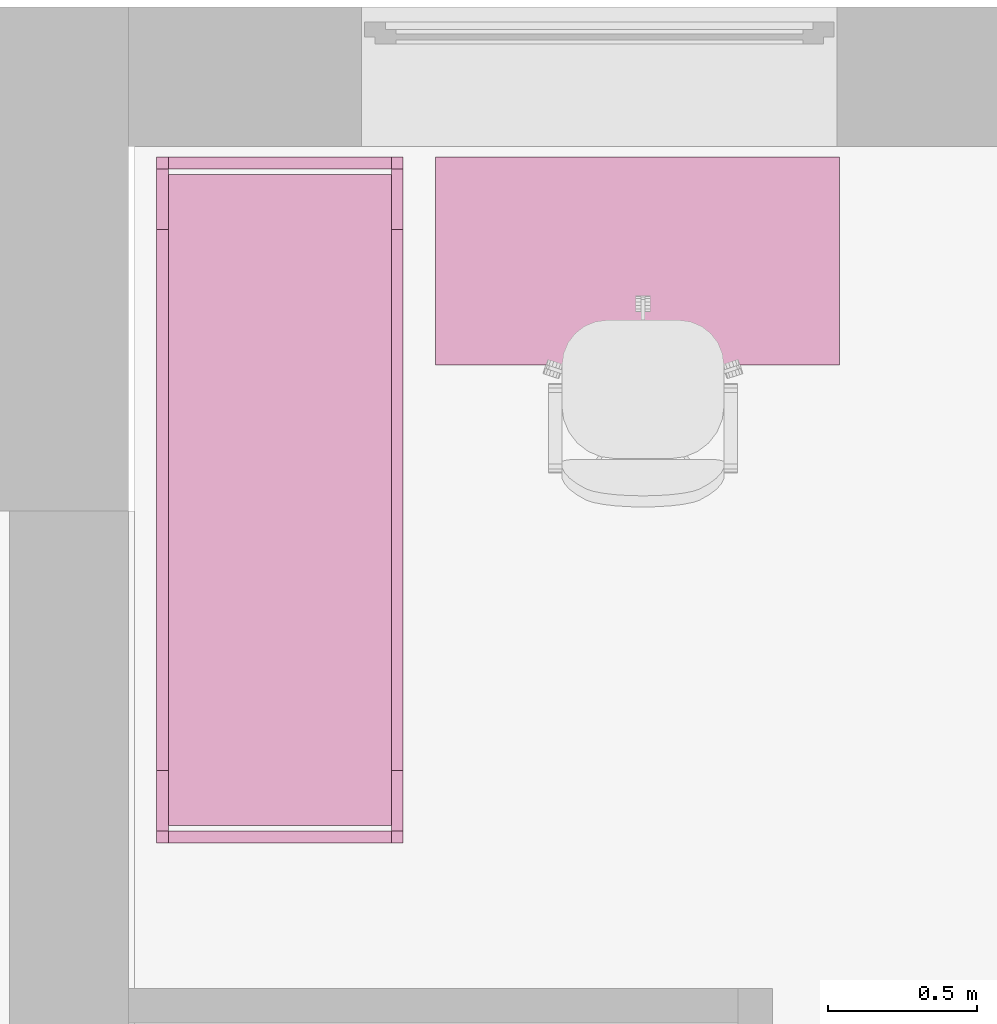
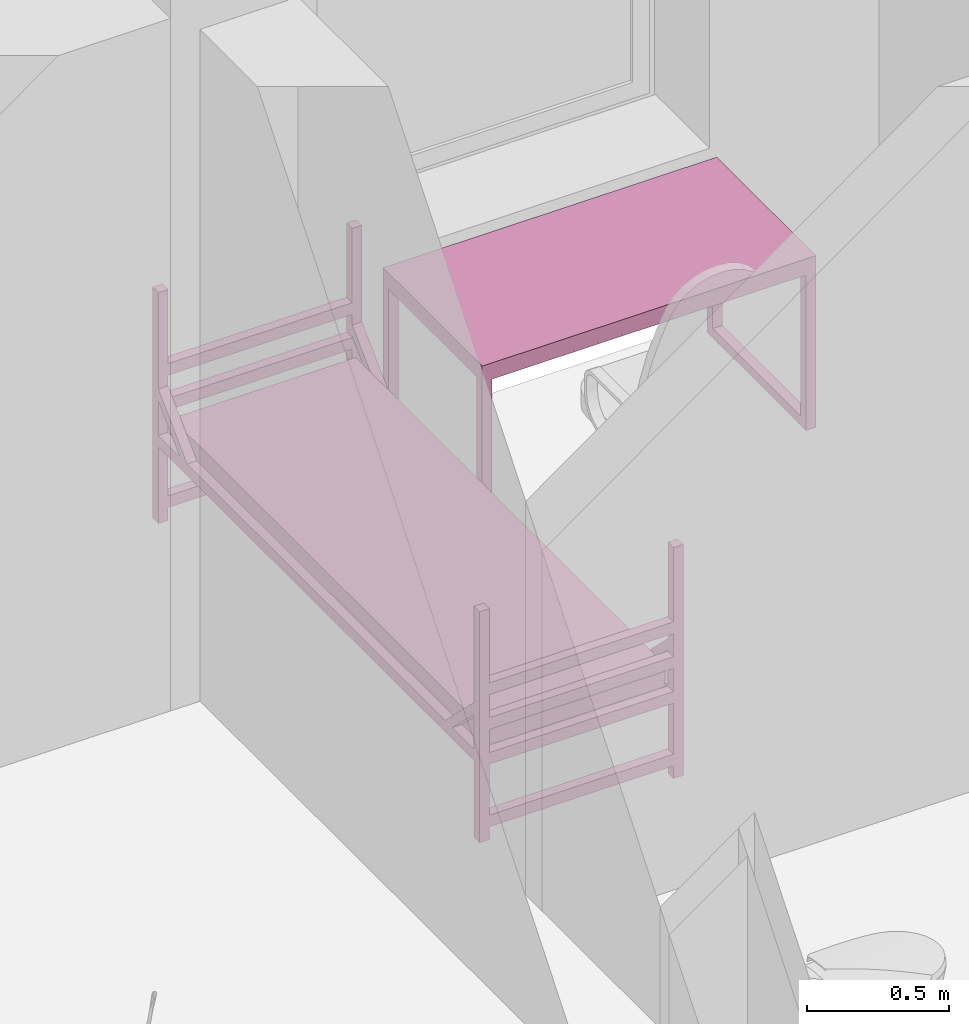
# One storey, part 24 of 46: 2 furnishings.
"""IFC2X3 building model written with IfcOpenShell, lengths in millimetres."""

from ifc_helpers import new_model, entity, si_unit, converted_unit, derived_unit, direction, frame, frame_2d, origin, place, context, subcontext, project, spatial, polyline, circle_curve, parameter, trimmed, segment, composite_curve, rectangle, outline, extrude, faceted_brep, source, transform, mapped, material, material_list, type_object, type_shapes, element, save


model = new_model("IFC2X3")

# Units and contexts
model_context = context("Model", 3, precision=0.01, world=origin(), true_north=direction((6.12303176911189e-17, 1.0)))
body_context = subcontext(model_context, "Body", "Model", "MODEL_VIEW")
ifc_project = project(units=[si_unit("LENGTHUNIT", "METRE", prefix="MILLI"), si_unit("AREAUNIT", "SQUARE_METRE"), si_unit("VOLUMEUNIT", "CUBIC_METRE"), converted_unit("PLANEANGLEUNIT", "DEGREE", entity("IfcRatioMeasure", 0.0174532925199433), si_unit("PLANEANGLEUNIT", "RADIAN"), dimensions=[0, 0, 0, 0, 0, 0, 0]), si_unit("MASSUNIT", "GRAM", prefix="KILO"), derived_unit("MASSDENSITYUNIT", [(si_unit("MASSUNIT", "GRAM", prefix="KILO"), 1), (si_unit("LENGTHUNIT", "METRE"), -3)]), si_unit("TIMEUNIT", "SECOND"), si_unit("FREQUENCYUNIT", "HERTZ"), si_unit("THERMODYNAMICTEMPERATUREUNIT", "DEGREE_CELSIUS"), derived_unit("THERMALTRANSMITTANCEUNIT", [(si_unit("MASSUNIT", "GRAM", prefix="KILO"), 1), (si_unit("THERMODYNAMICTEMPERATUREUNIT", "KELVIN"), -1), (si_unit("TIMEUNIT", "SECOND"), -3)]), derived_unit("VOLUMETRICFLOWRATEUNIT", [(si_unit("LENGTHUNIT", "METRE"), 3), (si_unit("TIMEUNIT", "SECOND"), -1)]), si_unit("ELECTRICCURRENTUNIT", "AMPERE"), si_unit("ELECTRICVOLTAGEUNIT", "VOLT"), si_unit("POWERUNIT", "WATT"), si_unit("FORCEUNIT", "NEWTON", prefix="KILO"), si_unit("ILLUMINANCEUNIT", "LUX"), si_unit("LUMINOUSFLUXUNIT", "LUMEN"), si_unit("LUMINOUSINTENSITYUNIT", "CANDELA"), derived_unit("USERDEFINED", [(si_unit("MASSUNIT", "GRAM", prefix="KILO"), -1), (si_unit("LENGTHUNIT", "METRE"), -2), (si_unit("TIMEUNIT", "SECOND"), 3), (si_unit("LUMINOUSFLUXUNIT", "LUMEN"), 1)]), derived_unit("LINEARVELOCITYUNIT", [(si_unit("LENGTHUNIT", "METRE"), 1), (si_unit("TIMEUNIT", "SECOND"), -1)]), si_unit("PRESSUREUNIT", "PASCAL"), derived_unit("USERDEFINED", [(si_unit("LENGTHUNIT", "METRE"), -2), (si_unit("MASSUNIT", "GRAM", prefix="KILO"), 1), (si_unit("TIMEUNIT", "SECOND"), -2)]), derived_unit("LINEARFORCEUNIT", [(si_unit("MASSUNIT", "GRAM", prefix="KILO"), 1), (si_unit("LENGTHUNIT", "METRE"), 1), (si_unit("TIMEUNIT", "SECOND"), -2), (si_unit("LENGTHUNIT", "METRE"), -1)]), derived_unit("PLANARFORCEUNIT", [(si_unit("MASSUNIT", "GRAM", prefix="KILO"), 1), (si_unit("LENGTHUNIT", "METRE"), 1), (si_unit("TIMEUNIT", "SECOND"), -2), (si_unit("LENGTHUNIT", "METRE"), -2)])], contexts=[model_context])

# Site, building, storey, space
site_placement = place(None, origin())
site = spatial("IfcSite", under=ifc_project, at=site_placement, Name="Default", CompositionType="ELEMENT")
building_placement = place(site_placement, origin())
building = spatial("IfcBuilding", under=site, at=building_placement, Name="SMA ARH", CompositionType="ELEMENT")
storey_placement = place(building_placement, frame((0.0, 0.0, 9910.0)))
storey = spatial("IfcBuildingStorey", under=building, at=storey_placement, Name="4 Korrus", CompositionType="ELEMENT", Elevation=9909.9999999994)
space_placement = place(storey_placement, origin())
space = spatial("IfcSpace", under=storey, at=space_placement, Name="4-20/1", CompositionType="ELEMENT", InteriorOrExteriorSpace="INTERNAL")

# Furnishings
ifc_material_1 = material(Name="Madrats")
furniture_type_1 = type_object("IfcFurnitureType", Name="Kasarmu voodi ühekordne 2308x830:Kasarmu voodi ühekordne 2308x830", material=ifc_material_1)
shared_shape_1 = source(origin(), body_context, "Body", "SweptSolid", [
    extrude(rectangle(XDim=39.9999999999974, YDim=750.000000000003, at=frame_2d((-1.35003119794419e-13, -2.8421709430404e-14), x_axis=(1.0, 0.0))), frame((1.68638457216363, -1226.7969571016, 55.0), z_axis=(0.0, 0.0, 1.0), x_axis=(0.0, -1.0, 0.0)), (0.0, 0.0, 1.0), 49.9999999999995),
    extrude(rectangle(XDim=39.9999999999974, YDim=750.000000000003, at=frame_2d((-1.35003119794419e-13, -2.8421709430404e-14), x_axis=(1.0, 0.0))), frame((1.68638457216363, -1226.7969571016, 325.0), z_axis=(0.0, 0.0, 1.0), x_axis=(0.0, -1.0, 0.0)), (0.0, 0.0, 1.0), 49.9999999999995),
    extrude(rectangle(XDim=39.9999999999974, YDim=750.000000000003, at=frame_2d((-1.35003119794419e-13, -2.8421709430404e-14), x_axis=(1.0, 0.0))), frame((1.68638457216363, -1226.7969571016, 475.0), z_axis=(0.0, 0.0, 1.0), x_axis=(0.0, -1.0, 0.0)), (0.0, 0.0, 1.0), 49.9999999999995),
    extrude(rectangle(XDim=39.9999999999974, YDim=750.000000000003, at=frame_2d((-1.35003119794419e-13, -2.8421709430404e-14), x_axis=(1.0, 0.0))), frame((1.68638457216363, -1226.7969571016, 625.0), z_axis=(0.0, 0.0, 1.0), x_axis=(0.0, -1.0, 0.0)), (0.0, 0.0, 1.0), 50.0000000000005),
    extrude(rectangle(XDim=39.9999999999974, YDim=750.000000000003, at=frame_2d((1.35003119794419e-13, -2.8421709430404e-14), x_axis=(1.0, 0.0))), frame((1.68638457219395, 1041.2030428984, 55.0), z_axis=(0.0, 0.0, 1.0), x_axis=(0.0, -1.0, 0.0)), (0.0, 0.0, 1.0), 50.0000000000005),
    extrude(rectangle(XDim=39.9999999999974, YDim=750.000000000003, at=frame_2d((1.35003119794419e-13, -2.8421709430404e-14), x_axis=(1.0, 0.0))), frame((1.68638457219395, 1041.2030428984, 325.0), z_axis=(0.0, 0.0, 1.0), x_axis=(0.0, -1.0, 0.0)), (0.0, 0.0, 1.0), 50.0000000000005),
    extrude(rectangle(XDim=39.9999999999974, YDim=750.000000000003, at=frame_2d((1.35003119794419e-13, -2.8421709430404e-14), x_axis=(1.0, 0.0))), frame((1.68638457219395, 1041.2030428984, 475.0), z_axis=(0.0, 0.0, 1.0), x_axis=(0.0, -1.0, 0.0)), (0.0, 0.0, 1.0), 50.0000000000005),
    extrude(rectangle(XDim=39.9999999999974, YDim=750.000000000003, at=frame_2d((1.35003119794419e-13, -2.8421709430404e-14), x_axis=(1.0, 0.0))), frame((1.68638457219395, 1041.2030428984, 625.0), z_axis=(0.0, 0.0, 1.0), x_axis=(0.0, -1.0, 0.0)), (0.0, 0.0, 1.0), 49.9999999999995),
    extrude(outline(composite_curve([segment(trimmed(circle_curve(frame_2d((1085.0, -40.0), x_axis=(1.0, 0.0)), 10.0), [parameter(270.0)], [parameter(0.0)], True, "PARAMETER"), True, "CONTINUOUS"), segment(polyline([(1095.0, -40.0), (1095.0, 40.0)]), True, "CONTINUOUS"), segment(trimmed(circle_curve(frame_2d((1085.0, 40.0), x_axis=(1.0, 0.0)), 10.0), [parameter(0.0)], [parameter(90.0000000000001)], True, "PARAMETER"), True, "CONTINUOUS"), segment(polyline([(1085.0, 50.0), (-1085.0, 50.0)]), True, "CONTINUOUS"), segment(trimmed(circle_curve(frame_2d((-1085.0, 40.0), x_axis=(1.0, 0.0)), 10.0), [parameter(90.0000000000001)], [parameter(180.0)], True, "PARAMETER"), True, "CONTINUOUS"), segment(polyline([(-1095.0, 40.0), (-1095.0, -40.0)]), True, "CONTINUOUS"), segment(trimmed(circle_curve(frame_2d((-1085.0, -40.0), x_axis=(1.0, 0.0)), 10.0), [parameter(180.0)], [parameter(270.0)], True, "PARAMETER"), True, "CONTINUOUS"), segment(polyline([(-1085.0, -50.0), (1085.0, -50.0)]), True, "CONTINUOUS")], self_intersect=False)), frame((-373.313615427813, -92.7969571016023, 405.0), z_axis=(1.0, 0.0, 0.0), x_axis=(0.0, -1.0, 0.0)), (0.0, 0.0, 1.0), 750.000000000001),
    extrude(outline(polyline([(-1114.0, -100.0), (1114.0, -100.0), (1114.0, -50.0), (961.59199141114, -50.0), (1114.0, 100.0), (1114.0, 150.0), (910.789321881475, -50.0), (-910.789321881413, -50.0), (-1114.0, 150.0), (-1114.0, 100.0), (-961.591991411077, -50.0), (-1114.0, -50.0), (-1114.0, -100.0)])), frame((-413.313615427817, -92.7969571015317, 430.0), z_axis=(1.0, 0.0, 0.0), x_axis=(0.0, 1.0, 0.0)), (0.0, 0.0, 1.0), 39.9999999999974),
    extrude(outline(polyline([(-1114.0, -100.0), (1114.0, -100.0), (1114.0, -50.0), (961.591991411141, -50.0), (1114.0, 100.0), (1114.0, 150.0), (910.789321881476, -50.0), (-910.789321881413, -50.0), (-1114.0, 150.0), (-1114.0, 100.0), (-961.591991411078, -50.0), (-1114.0, -50.0), (-1114.0, -100.0)])), frame((376.686384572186, -92.796957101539, 430.0), z_axis=(1.0, 0.0, 0.0), x_axis=(0.0, 1.0, 0.0)), (0.0, 0.0, 1.0), 39.9999999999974),
    extrude(rectangle(XDim=39.9999999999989, YDim=39.9999999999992, at=frame_2d((-6.75015598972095e-14, 0.0), x_axis=(1.0, 0.0))), frame((396.686384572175, -1226.79695710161, 0.0), z_axis=(0.0, 0.0, 1.0), x_axis=(0.0, 1.0, 0.0)), (0.0, 0.0, 1.0), 995.0),
    extrude(rectangle(XDim=39.9999999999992, YDim=39.9999999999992, at=frame_2d((-1.35003119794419e-13, 0.0), x_axis=(1.0, 0.0))), frame((396.686384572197, 1041.20304289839, 0.0), z_axis=(0.0, 0.0, 1.0), x_axis=(0.0, 1.0, 0.0)), (0.0, 0.0, 1.0), 995.0),
    extrude(rectangle(XDim=40.0000000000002, YDim=39.9999999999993, at=frame_2d((-1.35003119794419e-13, 0.0), x_axis=(1.0, 0.0))), frame((-393.313615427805, 1041.2030428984, 0.0), z_axis=(0.0, 0.0, 1.0), x_axis=(0.0, 1.0, 0.0)), (0.0, 0.0, 1.0), 995.0),
    extrude(rectangle(XDim=39.9999999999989, YDim=39.9999999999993, at=frame_2d((-6.75015598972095e-14, 0.0), x_axis=(1.0, 0.0))), frame((-393.313615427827, -1226.7969571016, 0.0), z_axis=(0.0, 0.0, 1.0), x_axis=(0.0, 1.0, 0.0)), (0.0, 0.0, 1.0), 995.0),
])
type_shapes(furniture_type_1, [shared_shape_1])
furnishing_1_placement = place(space_placement, frame((2653.31361542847, 11380.0, 0.0)))
element("IfcFurnishingElement", 1, at=furnishing_1_placement, inside=space, type_object=furniture_type_1, material=ifc_material_1, Name="Kasarmu voodi ühekordne 2308x830:Kasarmu voodi ühekordne 2308x830", ObjectType="Kasarmu voodi ühekordne 2308x830:Kasarmu voodi ühekordne 2308x830", context=body_context, shape_type="MappedRepresentation", body=[
    mapped(shared_shape_1, transform((0.0, 0.0, 0.0), scale=1.0)),
])
ifc_material_2 = material(Name="<Unnamed>")
ifc_material_list = material_list([ifc_material_2, ifc_material_2])
furniture_type_2 = type_object("IfcFurnitureType", Name="kirjutuslaud 1360x700mm:kirjutuslaud 1360x700mm", material=ifc_material_list)
shared_shape_2 = source(origin(), body_context, "Body", "Brep", [
    faceted_brep([(680.0, -350.0, 720.0), (680.0, 350.0, 720.0), (680.0, 350.0, 750.0), (680.0, -350.0, 750.0), (-680.0, -350.0, 720.0), (-680.0, -350.0, 750.0), (-680.0, 350.0, 750.0), (-680.0, 350.0, 720.0)], [[[0, 1, 2, 3]], [[4, 5, 6, 7]], [[1, 0, 4, 7]], [[2, 1, 7, 6]], [[3, 2, 6, 5]], [[0, 3, 5, 4]]]),
    faceted_brep([(-640.0, -310.0, 680.0), (-640.0, 310.0, 680.0), (-640.0, 310.0, 720.0), (-640.0, -310.0, 720.0), (-680.0, -350.0, 720.0), (-680.0, 350.0, 720.0), (-680.0, 350.0, 10.0), (-680.0, -350.0, 10.0), (-680.0, 310.0, 680.0), (-680.0, -310.0, 680.0), (-680.0, -310.0, 50.0), (-680.0, 310.0, 50.0), (-640.0, -350.0, 10.0), (-640.0, -350.0, 680.0), (640.0, -350.0, 680.0), (640.0, -350.0, 10.0), (680.0, -350.0, 10.0), (680.0, -350.0, 720.0), (-640.0, 350.0, 10.0), (680.0, 350.0, 720.0), (680.0, 350.0, 10.0), (640.0, 350.0, 10.0), (640.0, 350.0, 680.0), (-640.0, 350.0, 680.0), (640.0, 310.0, 720.0), (640.0, -310.0, 720.0), (-640.0, 310.0, 50.0), (-640.0, -310.0, 50.0), (640.0, -310.0, 680.0), (640.0, 310.0, 680.0), (680.0, 310.0, 680.0), (680.0, 310.0, 50.0), (680.0, -310.0, 50.0), (680.0, -310.0, 680.0), (640.0, -310.0, 50.0), (640.0, 310.0, 50.0)], [[[0, 1, 2, 3]], [[4, 5, 6, 7], [8, 9, 10, 11]], [[4, 7, 12, 13, 14, 15, 16, 17]], [[18, 12, 7, 6]], [[6, 5, 19, 20, 21, 22, 23, 18]], [[19, 5, 4, 17], [2, 24, 25, 3]], [[26, 1, 8, 11]], [[27, 26, 11, 10]], [[0, 27, 10, 9]], [[1, 0, 9, 8]], [[14, 13, 0, 28]], [[24, 2, 1, 29]], [[3, 25, 28, 0]], [[17, 16, 20, 19], [30, 31, 32, 33]], [[21, 15, 14, 28, 34, 35, 29, 22]], [[20, 16, 15, 21]], [[31, 30, 29, 35]], [[32, 31, 35, 34]], [[33, 32, 34, 28]], [[30, 33, 28, 29]], [[29, 28, 25, 24]], [[29, 1, 23, 22]], [[12, 18, 23, 1, 26, 27, 0, 13]]]),
    faceted_brep([(-663.729456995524, -270.466136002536, 0.0), (-659.847171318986, -269.955023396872, 0.0), (-655.964885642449, -270.466136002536, 0.0), (-652.347171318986, -271.964642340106, 0.0), (-649.240569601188, -274.348421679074, 0.0), (-646.85679026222, -277.455023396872, 0.0), (-645.35828392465, -281.072737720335, 0.0), (-644.847171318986, -284.955023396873, 0.0), (-645.35828392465, -288.83730907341, 0.0), (-646.85679026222, -292.455023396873, 0.0), (-649.240569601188, -295.561625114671, 0.0), (-652.347171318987, -297.945404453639, 0.0), (-655.964885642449, -299.443910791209, 0.0), (-659.847171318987, -299.955023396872, 0.0), (-663.729456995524, -299.443910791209, 0.0), (-667.347171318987, -297.945404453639, 0.0), (-670.453773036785, -295.561625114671, 0.0), (-672.837552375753, -292.455023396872, 0.0), (-674.336058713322, -288.83730907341, 0.0), (-674.847171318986, -284.955023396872, 0.0), (-674.336058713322, -281.072737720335, 0.0), (-672.837552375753, -277.455023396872, 0.0), (-670.453773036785, -274.348421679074, 0.0), (-667.347171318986, -271.964642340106, 0.0), (-655.964885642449, -299.443910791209, 10.0), (-652.347171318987, -297.945404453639, 10.0), (-649.240569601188, -295.561625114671, 10.0), (-646.85679026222, -292.455023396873, 10.0), (-645.35828392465, -288.83730907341, 10.0), (-644.847171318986, -284.955023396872, 10.0), (-645.35828392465, -281.072737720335, 10.0), (-646.85679026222, -277.455023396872, 10.0), (-649.240569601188, -274.348421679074, 10.0), (-652.347171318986, -271.964642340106, 10.0), (-655.964885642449, -270.466136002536, 10.0), (-659.847171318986, -269.955023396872, 10.0), (-663.729456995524, -270.466136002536, 10.0), (-667.347171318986, -271.964642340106, 10.0), (-670.453773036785, -274.348421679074, 10.0), (-672.837552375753, -277.455023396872, 10.0), (-674.336058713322, -281.072737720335, 10.0), (-674.847171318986, -284.955023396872, 10.0), (-674.336058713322, -288.83730907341, 10.0), (-672.837552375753, -292.455023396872, 10.0), (-670.453773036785, -295.561625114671, 10.0), (-667.347171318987, -297.945404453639, 10.0), (-663.729456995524, -299.443910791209, 10.0), (-659.847171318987, -299.955023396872, 10.0)], [[[0, 1, 2, 3, 4, 5, 6, 7, 8, 9, 10, 11, 12, 13, 14, 15, 16, 17, 18, 19, 20, 21, 22, 23]], [[24, 25, 26, 27, 28, 29, 30, 31, 32, 33, 34, 35, 36, 37, 38, 39, 40, 41, 42, 43, 44, 45, 46, 47]], [[18, 42, 41, 19]], [[17, 43, 42, 18]], [[45, 44, 16, 15]], [[17, 16, 44, 43]], [[46, 45, 15, 14]], [[47, 46, 14, 13]], [[12, 24, 47, 13]], [[11, 25, 24, 12]], [[27, 26, 10, 9]], [[11, 10, 26, 25]], [[28, 27, 9, 8]], [[29, 28, 8, 7]], [[6, 30, 29, 7]], [[5, 31, 30, 6]], [[33, 32, 4, 3]], [[5, 4, 32, 31]], [[34, 33, 3, 2]], [[35, 34, 2, 1]], [[0, 36, 35, 1]], [[23, 37, 36, 0]], [[39, 38, 22, 21]], [[23, 22, 38, 37]], [[40, 39, 21, 20]], [[41, 40, 20, 19]]]),
    faceted_brep([(-655.964885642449, 270.466136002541, 10.0), (-652.347171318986, 271.964642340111, 10.0), (-649.240569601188, 274.348421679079, 10.0), (-646.85679026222, 277.455023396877, 10.0), (-645.35828392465, 281.07273772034, 10.0), (-644.847171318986, 284.955023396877, 10.0), (-645.35828392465, 288.837309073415, 10.0), (-646.85679026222, 292.455023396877, 10.0), (-649.240569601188, 295.561625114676, 10.0), (-652.347171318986, 297.945404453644, 10.0), (-655.964885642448, 299.443910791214, 10.0), (-659.847171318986, 299.955023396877, 10.0), (-663.729456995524, 299.443910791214, 10.0), (-667.347171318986, 297.945404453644, 10.0), (-670.453773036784, 295.561625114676, 10.0), (-672.837552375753, 292.455023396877, 10.0), (-674.336058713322, 288.837309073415, 10.0), (-674.847171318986, 284.955023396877, 10.0), (-674.336058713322, 281.07273772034, 10.0), (-672.837552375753, 277.455023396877, 10.0), (-670.453773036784, 274.348421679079, 10.0), (-667.347171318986, 271.964642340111, 10.0), (-663.729456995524, 270.466136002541, 10.0), (-659.847171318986, 269.955023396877, 10.0), (-655.964885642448, 299.443910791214, 0.0), (-652.347171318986, 297.945404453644, 0.0), (-649.240569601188, 295.561625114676, 0.0), (-646.85679026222, 292.455023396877, 0.0), (-645.35828392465, 288.837309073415, 0.0), (-644.847171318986, 284.955023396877, 0.0), (-645.35828392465, 281.07273772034, 0.0), (-646.85679026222, 277.455023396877, 0.0), (-649.240569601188, 274.348421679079, 0.0), (-652.347171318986, 271.964642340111, 0.0), (-655.964885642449, 270.466136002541, 0.0), (-659.847171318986, 269.955023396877, 0.0), (-663.729456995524, 270.466136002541, 0.0), (-667.347171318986, 271.964642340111, 0.0), (-670.453773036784, 274.348421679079, 0.0), (-672.837552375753, 277.455023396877, 0.0), (-674.336058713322, 281.07273772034, 0.0), (-674.847171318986, 284.955023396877, 0.0), (-674.336058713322, 288.837309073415, 0.0), (-672.837552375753, 292.455023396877, 0.0), (-670.453773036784, 295.561625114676, 0.0), (-667.347171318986, 297.945404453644, 0.0), (-663.729456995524, 299.443910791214, 0.0), (-659.847171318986, 299.955023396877, 0.0)], [[[0, 1, 2, 3, 4, 5, 6, 7, 8, 9, 10, 11, 12, 13, 14, 15, 16, 17, 18, 19, 20, 21, 22, 23]], [[24, 25, 26, 27, 28, 29, 30, 31, 32, 33, 34, 35, 36, 37, 38, 39, 40, 41, 42, 43, 44, 45, 46, 47]], [[40, 18, 17, 41]], [[39, 19, 18, 40]], [[21, 20, 38, 37]], [[39, 38, 20, 19]], [[22, 21, 37, 36]], [[23, 22, 36, 35]], [[34, 0, 23, 35]], [[33, 1, 0, 34]], [[3, 2, 32, 31]], [[33, 32, 2, 1]], [[4, 3, 31, 30]], [[5, 4, 30, 29]], [[28, 6, 5, 29]], [[27, 7, 6, 28]], [[9, 8, 26, 25]], [[27, 26, 8, 7]], [[10, 9, 25, 24]], [[11, 10, 24, 47]], [[46, 12, 11, 47]], [[45, 13, 12, 46]], [[15, 14, 44, 43]], [[45, 44, 14, 13]], [[16, 15, 43, 42]], [[17, 16, 42, 41]]]),
    faceted_brep([(656.270543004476, -270.466136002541, 0.0), (660.152828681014, -269.955023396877, 0.0), (664.035114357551, -270.466136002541, 0.0), (667.652828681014, -271.96464234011, 0.0), (670.759430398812, -274.348421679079, 0.0), (673.14320973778, -277.455023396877, 0.0), (674.64171607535, -281.072737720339, 0.0), (675.152828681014, -284.955023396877, 0.0), (674.64171607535, -288.837309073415, 0.0), (673.14320973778, -292.455023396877, 0.0), (670.759430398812, -295.561625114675, 0.0), (667.652828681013, -297.945404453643, 0.0), (664.035114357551, -299.443910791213, 0.0), (660.152828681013, -299.955023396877, 0.0), (656.270543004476, -299.443910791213, 0.0), (652.652828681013, -297.945404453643, 0.0), (649.546226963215, -295.561625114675, 0.0), (647.162447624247, -292.455023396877, 0.0), (645.663941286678, -288.837309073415, 0.0), (645.152828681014, -284.955023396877, 0.0), (645.663941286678, -281.072737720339, 0.0), (647.162447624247, -277.455023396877, 0.0), (649.546226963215, -274.348421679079, 0.0), (652.652828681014, -271.96464234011, 0.0), (664.035114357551, -299.443910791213, 10.0), (667.652828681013, -297.945404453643, 10.0), (670.759430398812, -295.561625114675, 10.0), (673.14320973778, -292.455023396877, 10.0), (674.64171607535, -288.837309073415, 10.0), (675.152828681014, -284.955023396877, 10.0), (674.64171607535, -281.072737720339, 10.0), (673.14320973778, -277.455023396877, 10.0), (670.759430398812, -274.348421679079, 10.0), (667.652828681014, -271.96464234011, 10.0), (664.035114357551, -270.466136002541, 10.0), (660.152828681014, -269.955023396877, 10.0), (656.270543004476, -270.466136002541, 10.0), (652.652828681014, -271.96464234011, 10.0), (649.546226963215, -274.348421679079, 10.0), (647.162447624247, -277.455023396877, 10.0), (645.663941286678, -281.072737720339, 10.0), (645.152828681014, -284.955023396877, 10.0), (645.663941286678, -288.837309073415, 10.0), (647.162447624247, -292.455023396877, 10.0), (649.546226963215, -295.561625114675, 10.0), (652.652828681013, -297.945404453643, 10.0), (656.270543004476, -299.443910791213, 10.0), (660.152828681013, -299.955023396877, 10.0)], [[[0, 1, 2, 3, 4, 5, 6, 7, 8, 9, 10, 11, 12, 13, 14, 15, 16, 17, 18, 19, 20, 21, 22, 23]], [[24, 25, 26, 27, 28, 29, 30, 31, 32, 33, 34, 35, 36, 37, 38, 39, 40, 41, 42, 43, 44, 45, 46, 47]], [[18, 42, 41, 19]], [[17, 43, 42, 18]], [[45, 44, 16, 15]], [[17, 16, 44, 43]], [[46, 45, 15, 14]], [[47, 46, 14, 13]], [[12, 24, 47, 13]], [[11, 25, 24, 12]], [[27, 26, 10, 9]], [[11, 10, 26, 25]], [[28, 27, 9, 8]], [[29, 28, 8, 7]], [[6, 30, 29, 7]], [[5, 31, 30, 6]], [[33, 32, 4, 3]], [[5, 4, 32, 31]], [[34, 33, 3, 2]], [[35, 34, 2, 1]], [[0, 36, 35, 1]], [[23, 37, 36, 0]], [[39, 38, 22, 21]], [[23, 22, 38, 37]], [[40, 39, 21, 20]], [[41, 40, 20, 19]]]),
    faceted_brep([(664.035114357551, 270.466136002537, 10.0), (667.652828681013, 271.964642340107, 10.0), (670.759430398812, 274.348421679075, 10.0), (673.14320973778, 277.455023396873, 10.0), (674.64171607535, 281.072737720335, 10.0), (675.152828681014, 284.955023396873, 10.0), (674.64171607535, 288.837309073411, 10.0), (673.14320973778, 292.455023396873, 10.0), (670.759430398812, 295.561625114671, 10.0), (667.652828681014, 297.94540445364, 10.0), (664.035114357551, 299.443910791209, 10.0), (660.152828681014, 299.955023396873, 10.0), (656.270543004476, 299.443910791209, 10.0), (652.652828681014, 297.94540445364, 10.0), (649.546226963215, 295.561625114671, 10.0), (647.162447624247, 292.455023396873, 10.0), (645.663941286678, 288.837309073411, 10.0), (645.152828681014, 284.955023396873, 10.0), (645.663941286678, 281.072737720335, 10.0), (647.162447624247, 277.455023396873, 10.0), (649.546226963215, 274.348421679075, 10.0), (652.652828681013, 271.964642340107, 10.0), (656.270543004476, 270.466136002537, 10.0), (660.152828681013, 269.955023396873, 10.0), (664.035114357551, 299.443910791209, 0.0), (667.652828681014, 297.94540445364, 0.0), (670.759430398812, 295.561625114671, 0.0), (673.14320973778, 292.455023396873, 0.0), (674.64171607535, 288.837309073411, 0.0), (675.152828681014, 284.955023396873, 0.0), (674.64171607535, 281.072737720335, 0.0), (673.14320973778, 277.455023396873, 0.0), (670.759430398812, 274.348421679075, 0.0), (667.652828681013, 271.964642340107, 0.0), (664.035114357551, 270.466136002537, 0.0), (660.152828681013, 269.955023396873, 0.0), (656.270543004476, 270.466136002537, 0.0), (652.652828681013, 271.964642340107, 0.0), (649.546226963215, 274.348421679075, 0.0), (647.162447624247, 277.455023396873, 0.0), (645.663941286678, 281.072737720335, 0.0), (645.152828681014, 284.955023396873, 0.0), (645.663941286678, 288.837309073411, 0.0), (647.162447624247, 292.455023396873, 0.0), (649.546226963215, 295.561625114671, 0.0), (652.652828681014, 297.94540445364, 0.0), (656.270543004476, 299.443910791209, 0.0), (660.152828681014, 299.955023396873, 0.0)], [[[0, 1, 2, 3, 4, 5, 6, 7, 8, 9, 10, 11, 12, 13, 14, 15, 16, 17, 18, 19, 20, 21, 22, 23]], [[24, 25, 26, 27, 28, 29, 30, 31, 32, 33, 34, 35, 36, 37, 38, 39, 40, 41, 42, 43, 44, 45, 46, 47]], [[40, 18, 17, 41]], [[39, 19, 18, 40]], [[21, 20, 38, 37]], [[39, 38, 20, 19]], [[22, 21, 37, 36]], [[23, 22, 36, 35]], [[34, 0, 23, 35]], [[33, 1, 0, 34]], [[3, 2, 32, 31]], [[33, 32, 2, 1]], [[4, 3, 31, 30]], [[5, 4, 30, 29]], [[28, 6, 5, 29]], [[27, 7, 6, 28]], [[9, 8, 26, 25]], [[27, 26, 8, 7]], [[10, 9, 25, 24]], [[11, 10, 24, 47]], [[46, 12, 11, 47]], [[45, 13, 12, 46]], [[15, 14, 44, 43]], [[45, 44, 14, 13]], [[16, 15, 43, 42]], [[17, 16, 42, 41]]]),
])
type_shapes(furniture_type_2, [shared_shape_2])
furnishing_2_placement = place(space_placement, frame((3859.0, 12091.2030428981, 0.0)))
element("IfcFurnishingElement", 2, at=furnishing_2_placement, inside=space, type_object=furniture_type_2, Name="kirjutuslaud 1360x700mm:kirjutuslaud 1360x700mm", ObjectType="kirjutuslaud 1360x700mm:kirjutuslaud 1360x700mm", context=body_context, shape_type="MappedRepresentation", body=[
    mapped(shared_shape_2, transform((0.0, 0.0, 0.0), scale=1.0)),
])

save(model, "model.ifc")
